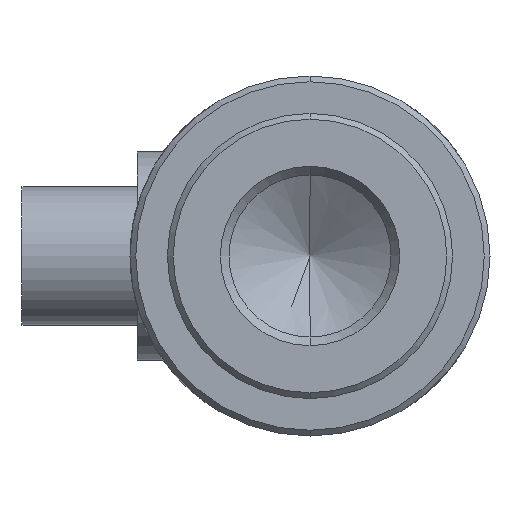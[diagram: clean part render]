
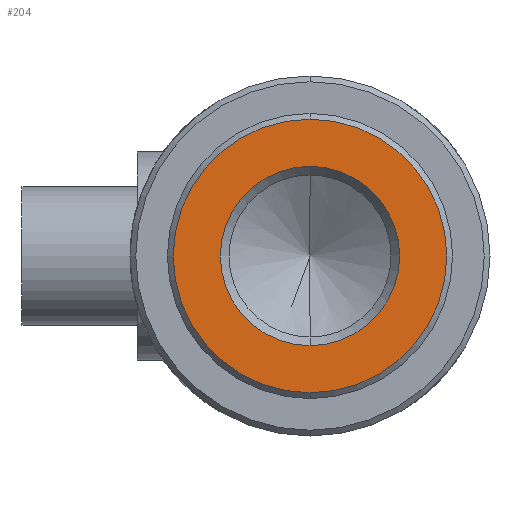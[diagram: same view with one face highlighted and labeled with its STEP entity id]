
A CAD part, front view. The second image highlights one B-rep face of the part: STEP entity #204.
In plain terms, the highlighted planar face has unit normal (0, -1, 0).
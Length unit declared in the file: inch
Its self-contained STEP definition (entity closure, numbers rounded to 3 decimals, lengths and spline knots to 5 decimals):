
#35 = EDGE_CURVE ( 'NONE', #1375, #1370, #461, .T. ) ;
#85 = EDGE_CURVE ( 'NONE', #1421, #635, #494, .T. ) ;
#114 = EDGE_CURVE ( 'NONE', #635, #1421, #488, .T. ) ;
#115 = AXIS2_PLACEMENT_3D ( 'NONE', #693, #700, #680 ) ;
#116 = EDGE_CURVE ( 'NONE', #1370, #1375, #491, .T. ) ;
#121 = AXIS2_PLACEMENT_3D ( 'NONE', #914, #920, #900 ) ;
#171 = AXIS2_PLACEMENT_3D ( 'NONE', #1108, #1109, #1118 ) ;
#183 = AXIS2_PLACEMENT_3D ( 'NONE', #1084, #1093, #1098 ) ;
#190 = AXIS2_PLACEMENT_3D ( 'NONE', #996, #992, #981 ) ;
#204 = ADVANCED_FACE ( 'NONE', ( #566, #528 ), #1001, .T. ) ;
#291 = ORIENTED_EDGE ( 'NONE', *, *, #116, .T. ) ;
#317 = ORIENTED_EDGE ( 'NONE', *, *, #35, .T. ) ;
#341 = ORIENTED_EDGE ( 'NONE', *, *, #114, .F. ) ;
#343 = EDGE_LOOP ( 'NONE', ( #291, #317 ) ) ;
#347 = ORIENTED_EDGE ( 'NONE', *, *, #85, .F. ) ;
#432 = EDGE_LOOP ( 'NONE', ( #341, #347 ) ) ;
#461 = CIRCLE ( 'NONE', #115, 0.475 ) ;
#488 = CIRCLE ( 'NONE', #171, 0.31125 ) ;
#491 = CIRCLE ( 'NONE', #183, 0.475 ) ;
#494 = CIRCLE ( 'NONE', #121, 0.31125 ) ;
#528 = FACE_OUTER_BOUND ( 'NONE', #343, .T. ) ;
#566 = FACE_BOUND ( 'NONE', #432, .T. ) ;
#635 = VERTEX_POINT ( 'NONE', #1290 ) ;
#680 = DIRECTION ( 'NONE',  ( 0., 0., -1. ) ) ;
#693 = CARTESIAN_POINT ( 'NONE',  ( 0., -0.04, 0. ) ) ;
#700 = DIRECTION ( 'NONE',  ( 0., -1., 0. ) ) ;
#900 = DIRECTION ( 'NONE',  ( 0., 0., -1. ) ) ;
#914 = CARTESIAN_POINT ( 'NONE',  ( 0., -0.04, 0. ) ) ;
#920 = DIRECTION ( 'NONE',  ( 0., -1., 0. ) ) ;
#981 = DIRECTION ( 'NONE',  ( 0., 0., -1. ) ) ;
#992 = DIRECTION ( 'NONE',  ( 0., -1., 0. ) ) ;
#996 = CARTESIAN_POINT ( 'NONE',  ( 0., -0.04, 0. ) ) ;
#1001 = PLANE ( 'NONE',  #190 ) ;
#1084 = CARTESIAN_POINT ( 'NONE',  ( 0., -0.04, 0. ) ) ;
#1093 = DIRECTION ( 'NONE',  ( 0., -1., 0. ) ) ;
#1098 = DIRECTION ( 'NONE',  ( 0., 0., -1. ) ) ;
#1108 = CARTESIAN_POINT ( 'NONE',  ( 0., -0.04, 0. ) ) ;
#1109 = DIRECTION ( 'NONE',  ( 0., -1., 0. ) ) ;
#1118 = DIRECTION ( 'NONE',  ( 0., 0., -1. ) ) ;
#1247 = CARTESIAN_POINT ( 'NONE',  ( 0., -0.04, 0.475 ) ) ;
#1249 = CARTESIAN_POINT ( 'NONE',  ( 0., -0.04, -0.475 ) ) ;
#1290 = CARTESIAN_POINT ( 'NONE',  ( 0., -0.04, -0.31125 ) ) ;
#1298 = CARTESIAN_POINT ( 'NONE',  ( 0., -0.04, 0.31125 ) ) ;
#1370 = VERTEX_POINT ( 'NONE', #1247 ) ;
#1375 = VERTEX_POINT ( 'NONE', #1249 ) ;
#1421 = VERTEX_POINT ( 'NONE', #1298 ) ;
